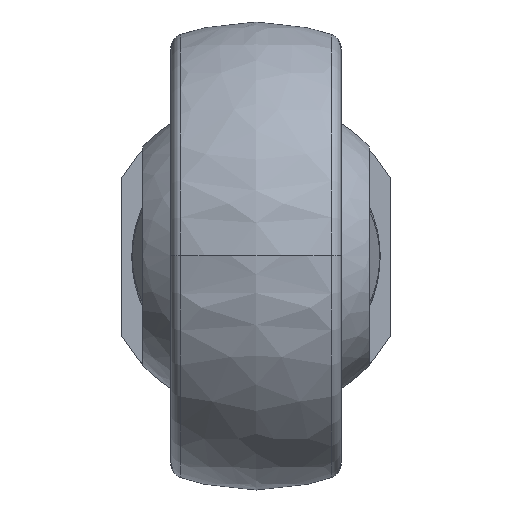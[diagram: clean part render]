
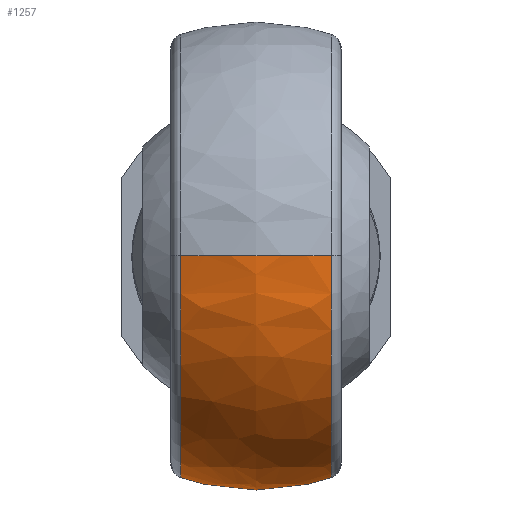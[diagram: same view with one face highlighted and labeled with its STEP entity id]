
A CAD part, top view. The second image highlights one B-rep face of the part: STEP entity #1257.
In plain terms, the highlighted spherical face has radius 16.5 mm.
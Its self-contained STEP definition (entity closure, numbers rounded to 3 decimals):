
#17 = DIRECTION ( 'NONE',  ( 0., -1., 0. ) ) ;
#78 = DIRECTION ( 'NONE',  ( 1., 0., 0. ) ) ;
#111 = VERTEX_POINT ( 'NONE', #401 ) ;
#119 = EDGE_CURVE ( 'NONE', #359, #111, #1489, .T. ) ;
#165 = FACE_OUTER_BOUND ( 'NONE', #1504, .T. ) ;
#185 = DIRECTION ( 'NONE',  ( 0., 0., -1. ) ) ;
#213 = VERTEX_POINT ( 'NONE', #1463 ) ;
#253 = CARTESIAN_POINT ( 'NONE',  ( -5.323, 0., 202. ) ) ;
#291 = DIRECTION ( 'NONE',  ( 0., 0., 1. ) ) ;
#303 = ORIENTED_EDGE ( 'NONE', *, *, #119, .T. ) ;
#309 = CARTESIAN_POINT ( 'NONE',  ( 0., 0., 202. ) ) ;
#317 = CIRCLE ( 'NONE', #399, 15.618 ) ;
#335 = CIRCLE ( 'NONE', #1462, 11.675 ) ;
#359 = VERTEX_POINT ( 'NONE', #1388 ) ;
#362 = VERTEX_POINT ( 'NONE', #1493 ) ;
#379 = DIRECTION ( 'NONE',  ( -1., 0., 0. ) ) ;
#399 = AXIS2_PLACEMENT_3D ( 'NONE', #253, #379, #888 ) ;
#401 = CARTESIAN_POINT ( 'NONE',  ( -5.323, 0., 217.618 ) ) ;
#431 = CARTESIAN_POINT ( 'NONE',  ( 5.323, 0., 202. ) ) ;
#529 = SPHERICAL_SURFACE ( 'NONE', #1581, 16.5 ) ;
#543 = DIRECTION ( 'NONE',  ( 0., 1., 0. ) ) ;
#579 = EDGE_CURVE ( 'NONE', #359, #362, #1173, .T. ) ;
#664 = CARTESIAN_POINT ( 'NONE',  ( 0., 0., 202. ) ) ;
#695 = EDGE_CURVE ( 'NONE', #362, #213, #335, .T. ) ;
#702 = DIRECTION ( 'NONE',  ( 0., 0., -1. ) ) ;
#795 = EDGE_CURVE ( 'NONE', #213, #111, #317, .T. ) ;
#840 = ORIENTED_EDGE ( 'NONE', *, *, #795, .F. ) ;
#888 = DIRECTION ( 'NONE',  ( 0., 0., 1. ) ) ;
#936 = AXIS2_PLACEMENT_3D ( 'NONE', #309, #17, #185 ) ;
#1081 = CARTESIAN_POINT ( 'NONE',  ( 0., 0., 190.34 ) ) ;
#1088 = DIRECTION ( 'NONE',  ( 0., -1., 0. ) ) ;
#1173 = CIRCLE ( 'NONE', #1390, 15.618 ) ;
#1257 = ADVANCED_FACE ( 'NONE', ( #165 ), #529, .T. ) ;
#1278 = ORIENTED_EDGE ( 'NONE', *, *, #579, .F. ) ;
#1310 = DIRECTION ( 'NONE',  ( 0., 0., 1. ) ) ;
#1366 = ORIENTED_EDGE ( 'NONE', *, *, #695, .F. ) ;
#1388 = CARTESIAN_POINT ( 'NONE',  ( 5.323, 0., 217.618 ) ) ;
#1390 = AXIS2_PLACEMENT_3D ( 'NONE', #431, #78, #1310 ) ;
#1462 = AXIS2_PLACEMENT_3D ( 'NONE', #1081, #702, #1088 ) ;
#1463 = CARTESIAN_POINT ( 'NONE',  ( -5.323, -10.391, 190.34 ) ) ;
#1489 = CIRCLE ( 'NONE', #936, 16.5 ) ;
#1493 = CARTESIAN_POINT ( 'NONE',  ( 5.323, -10.391, 190.34 ) ) ;
#1504 = EDGE_LOOP ( 'NONE', ( #1278, #303, #840, #1366 ) ) ;
#1581 = AXIS2_PLACEMENT_3D ( 'NONE', #664, #543, #291 ) ;
